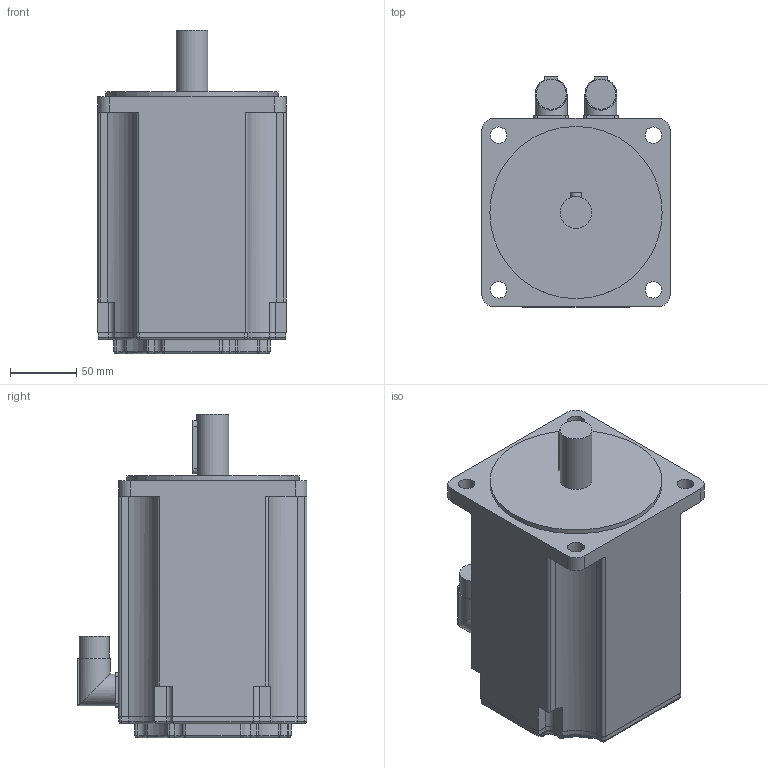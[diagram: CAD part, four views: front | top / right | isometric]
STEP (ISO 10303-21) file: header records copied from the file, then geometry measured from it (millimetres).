
FILE_DESCRIPTION(/* description */ (''),/* implementation_level */ '2;1');
FILE_NAME(/* name */ '\\Lafnas01\disegni\Archivi Lafert\3D\CAD 3D\MODELLI\Assiemi clienti\Serad\Modelli 3D Serad\B71Q\Encoder\Enc With Brake\B7104Qxx6BRx2033.ipt.stp',/* time_stamp */ '2015-09-07T10:52:13+02:00',/* author */ ('Pastrello Ylenia'),/* organization */ (''),/* preprocessor_version */ 'ST-DEVELOPER v15.6',/* originating_system */ 'Autodesk Inventor 2015',/* authorisation */ '');
FILE_SCHEMA (('AUTOMOTIVE_DESIGN { 1 0 10303 214 3 1 1 }'));
Length unit declared in the file: millimetre
Products named in the file (1): B7104Qxx6BRx2033
Bounding box: 142 x 173.5 x 244 mm (x, y, z)
Volume: 3438591.9 mm3; surface area: 154274.5 mm2
Topology: 1 solids, 1 shells, 251 faces, 624 edges, 386 vertices
Faces by surface type: cylinder 118, plane 93, torus 20, sphere 20
Full cylindrical faces by diameter (mm): 12.5 x4, 22.7 x2, 24 x3, 130 x1
Entity records: 7508 total; most frequent: CARTESIAN_POINT 1382, DIRECTION 1362, ORIENTED_EDGE 1220, EDGE_CURVE 610, AXIS2_PLACEMENT_3D 510, VERTEX_POINT 382, LINE 342, VECTOR 342
